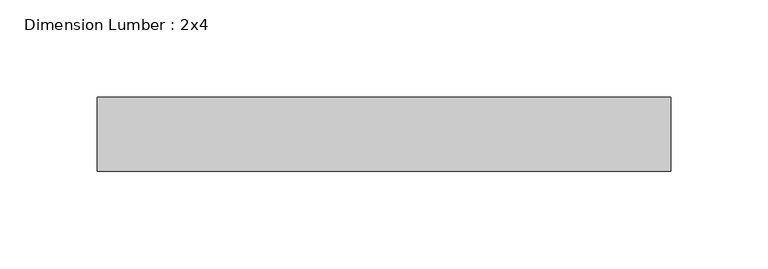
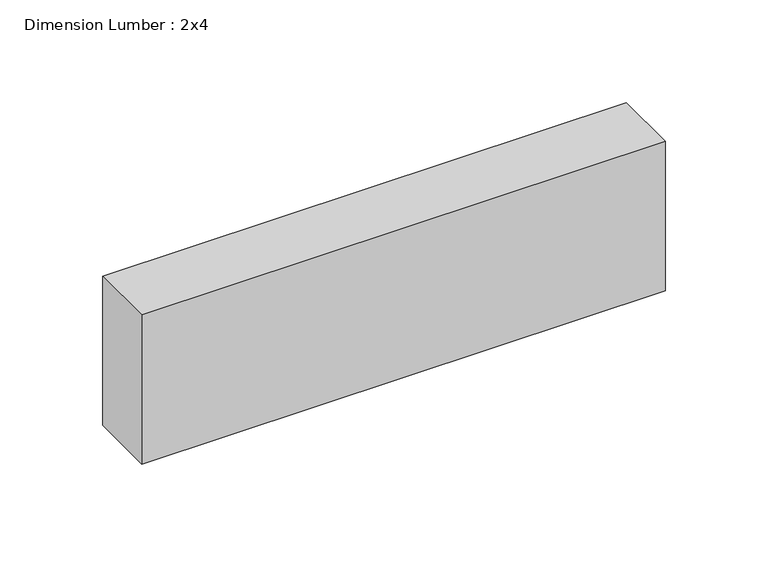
"""IFC4 building model written with IfcOpenShell, lengths in millimetres: beam geometry, Dimension Lumber : 2x4."""

from ifc_helpers import new_model, si_unit, frame, origin, place, context, project, spatial, polyline, outline, extrude, source, transform, mapped, element, save


def dimension_lumber_2x4_b45ec591(model_context):
    return source(origin(), model_context, "Body", "SweptSolid", [
        extrude(outline(polyline([(736.8360214, 19.05), (736.8360214, -19.05), (442.0901881, -19.05), (442.0901881, 19.05), (736.8360214, 19.05)])), frame((0.0, 0.0, -44.45), z_axis=(0.0, 0.0, 1.0), x_axis=(1.0, 0.0, 0.0)), (0.0, 0.0, 1.0), 88.9),
    ])


if __name__ == "__main__":
    model = new_model("IFC4")
    model_context = context("Model", 3, world=origin())
    ifc_project = project(units=[si_unit("LENGTHUNIT", "METRE", prefix="MILLI")], contexts=[model_context])
    site = spatial("IfcSite", under=ifc_project)
    building = spatial("IfcBuilding", under=site)
    placement = place(None, origin())
    dimension_lumber_2x4_shape = dimension_lumber_2x4_b45ec591(model_context)
    element("IfcBeam", 1, ObjectType="Dimension Lumber : 2x4", at=placement, inside=building, context=model_context, shape_type="MappedRepresentation", body=[
        mapped(dimension_lumber_2x4_shape, transform((0.0, 0.0, 0.0), x_axis=(1.0, 0.0, 0.0), y_axis=(0.0, 1.0, 0.0), z_axis=(0.0, 0.0, 1.0))),
    ])
    save(model, "model.ifc")
